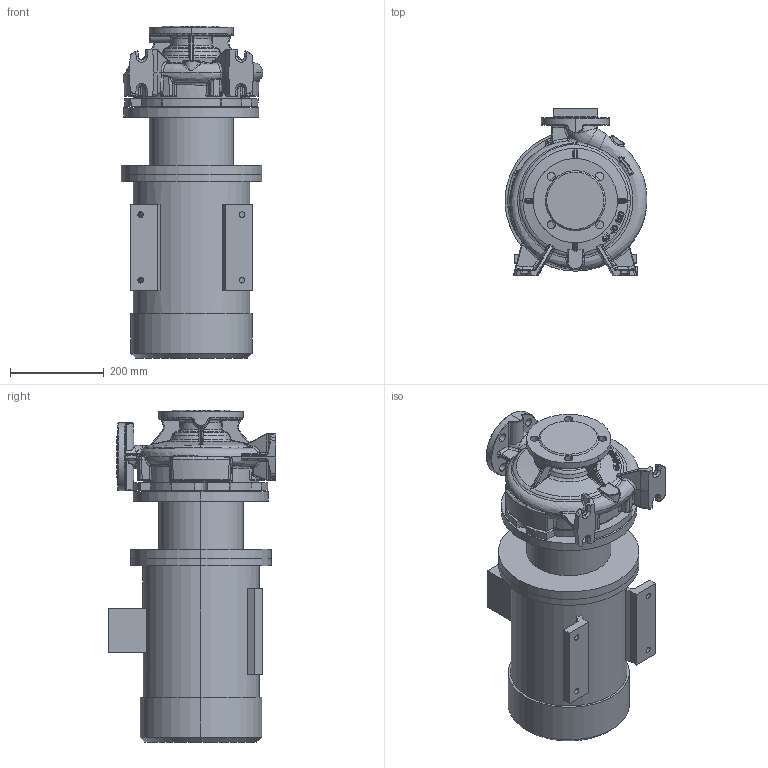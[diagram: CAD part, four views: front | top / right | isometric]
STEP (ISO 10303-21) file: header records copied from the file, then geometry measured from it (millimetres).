
FILE_DESCRIPTION (( 'STEP AP203' ), '1' );
FILE_NAME ('KRM 65-40-200-2-5,5.STEP', '2026-09-22T11:32:30', ( '' ), ( '' ), 'SwSTEP 2.0', 'SolidWorks 2016', '' );
FILE_SCHEMA (( 'CONFIG_CONTROL_DESIGN' ));
Length unit declared in the file: millimetre
Products named in the file (1): KRM 65-40-200-2-5,5
Bounding box: 302.68 x 358 x 708.3 mm (x, y, z)
Volume: 34044048.2 mm3; surface area: 1409135.7 mm2
Topology: 4 solids, 4 shells, 1142 faces, 2779 edges, 1656 vertices
Faces by surface type: bspline 511, cylinder 218, plane 213, cone 90, torus 82, sphere 28
Entity records: 71872 total; most frequent: CARTESIAN_POINT 49200, ORIENTED_EDGE 5516, DIRECTION 3668, EDGE_CURVE 2758, VERTEX_POINT 1656, AXIS2_PLACEMENT_3D 1537, EDGE_LOOP 1198, ADVANCED_FACE 1142
